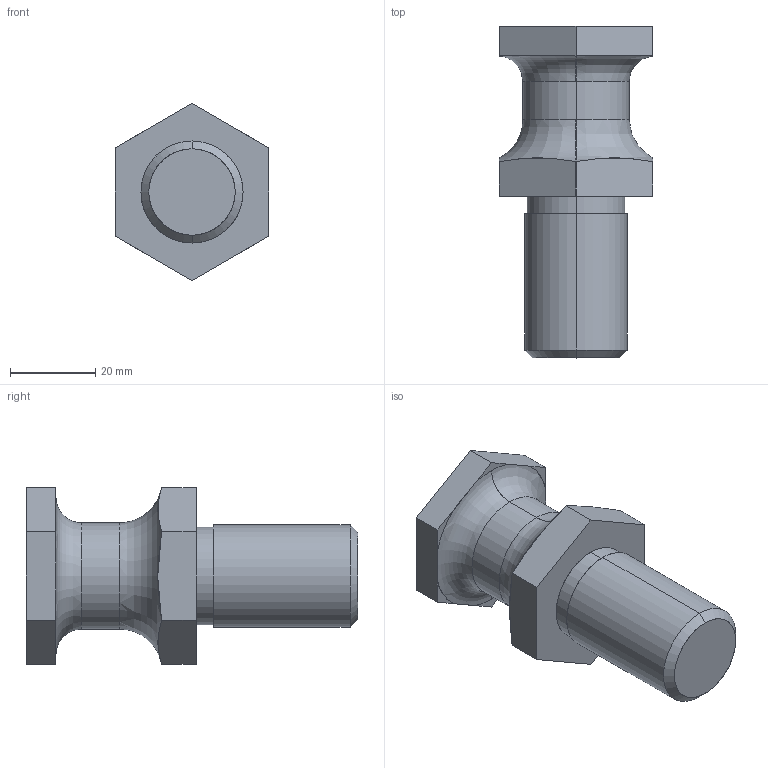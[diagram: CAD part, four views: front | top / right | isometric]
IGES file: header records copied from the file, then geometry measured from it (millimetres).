
Start section: START RECORD GO HERE.
Global section: file name: 395P-02-025-024.igs; native system: DASSAULT SYSTEMES CATIA V5 R20 - www.3ds.com; preprocessor: CATIA Version 5 Release 20 ; author: Utente; organization: NB04-ASUS; date: 20200409.204312; units: millimetre
Bounding box: 36 x 78 x 41.57 mm (x, y, z)
Surface area: 9772.2 mm2 (no closed solid volume)
Topology: 0 solids, 0 shells, 34 faces, 175 edges, 175 vertices
Faces by surface type: extrusion 22, revolution 12
